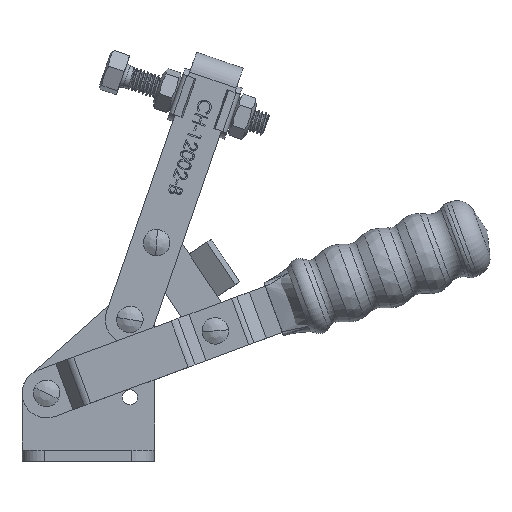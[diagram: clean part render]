
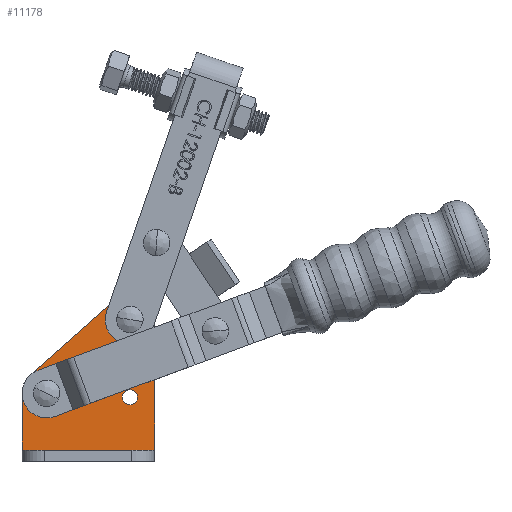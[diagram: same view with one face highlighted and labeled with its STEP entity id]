
A CAD part, top view. The second image highlights one B-rep face of the part: STEP entity #11178.
In plain terms, the highlighted planar face has unit normal (0, 0, 1).
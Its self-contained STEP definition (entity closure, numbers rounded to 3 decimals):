
#862=FACE_BOUND('',#1840,.T.);
#863=FACE_BOUND('',#1841,.T.);
#864=FACE_BOUND('',#1842,.T.);
#942=PLANE('',#12006);
#1219=FACE_OUTER_BOUND('',#1839,.T.);
#1839=EDGE_LOOP('',(#7616,#7617,#7618,#7619,#7620,#7621));
#1840=EDGE_LOOP('',(#7622,#7623));
#1841=EDGE_LOOP('',(#7624,#7625));
#1842=EDGE_LOOP('',(#7626,#7627));
#2541=LINE('',#15136,#3484);
#2542=LINE('',#15138,#3485);
#2543=LINE('',#15142,#3486);
#2544=LINE('',#15145,#3487);
#3484=VECTOR('',#12757,1000.);
#3485=VECTOR('',#12758,1000.);
#3486=VECTOR('',#12761,1000.);
#3487=VECTOR('',#12764,1000.);
#4424=CIRCLE('',#11992,2.);
#4427=CIRCLE('',#11995,2.);
#4428=CIRCLE('',#11997,2.);
#4431=CIRCLE('',#12000,2.);
#4432=CIRCLE('',#12002,2.);
#4435=CIRCLE('',#12005,2.);
#4436=CIRCLE('',#12007,6.5);
#4437=CIRCLE('',#12008,6.5);
#4696=VERTEX_POINT('',#15104);
#4697=VERTEX_POINT('',#15105);
#4700=VERTEX_POINT('',#15114);
#4701=VERTEX_POINT('',#15115);
#4704=VERTEX_POINT('',#15124);
#4705=VERTEX_POINT('',#15125);
#4708=VERTEX_POINT('',#15134);
#4709=VERTEX_POINT('',#15135);
#4710=VERTEX_POINT('',#15137);
#4711=VERTEX_POINT('',#15139);
#4712=VERTEX_POINT('',#15141);
#4713=VERTEX_POINT('',#15143);
#5865=EDGE_CURVE('',#4696,#4697,#4424,.T.);
#5869=EDGE_CURVE('',#4697,#4696,#4427,.T.);
#5870=EDGE_CURVE('',#4700,#4701,#4428,.T.);
#5874=EDGE_CURVE('',#4701,#4700,#4431,.T.);
#5875=EDGE_CURVE('',#4704,#4705,#4432,.T.);
#5879=EDGE_CURVE('',#4705,#4704,#4435,.T.);
#5880=EDGE_CURVE('',#4708,#4709,#2541,.T.);
#5881=EDGE_CURVE('',#4708,#4710,#2542,.T.);
#5882=EDGE_CURVE('',#4710,#4711,#4436,.T.);
#5883=EDGE_CURVE('',#4711,#4712,#2543,.T.);
#5884=EDGE_CURVE('',#4712,#4713,#4437,.T.);
#5885=EDGE_CURVE('',#4713,#4709,#2544,.T.);
#7616=ORIENTED_EDGE('',*,*,#5880,.F.);
#7617=ORIENTED_EDGE('',*,*,#5881,.T.);
#7618=ORIENTED_EDGE('',*,*,#5882,.T.);
#7619=ORIENTED_EDGE('',*,*,#5883,.T.);
#7620=ORIENTED_EDGE('',*,*,#5884,.T.);
#7621=ORIENTED_EDGE('',*,*,#5885,.T.);
#7622=ORIENTED_EDGE('',*,*,#5870,.F.);
#7623=ORIENTED_EDGE('',*,*,#5874,.F.);
#7624=ORIENTED_EDGE('',*,*,#5875,.F.);
#7625=ORIENTED_EDGE('',*,*,#5879,.F.);
#7626=ORIENTED_EDGE('',*,*,#5865,.F.);
#7627=ORIENTED_EDGE('',*,*,#5869,.F.);
#11178=ADVANCED_FACE('',(#1219,#862,#863,#864),#942,.T.);
#11992=AXIS2_PLACEMENT_3D('',#15106,#12724,#12725);
#11995=AXIS2_PLACEMENT_3D('',#15112,#12731,#12732);
#11997=AXIS2_PLACEMENT_3D('',#15116,#12735,#12736);
#12000=AXIS2_PLACEMENT_3D('',#15122,#12742,#12743);
#12002=AXIS2_PLACEMENT_3D('',#15126,#12746,#12747);
#12005=AXIS2_PLACEMENT_3D('',#15132,#12753,#12754);
#12006=AXIS2_PLACEMENT_3D('',#15133,#12755,#12756);
#12007=AXIS2_PLACEMENT_3D('',#15140,#12759,#12760);
#12008=AXIS2_PLACEMENT_3D('',#15144,#12762,#12763);
#12724=DIRECTION('center_axis',(0.,0.,1.));
#12725=DIRECTION('ref_axis',(1.,0.,0.));
#12731=DIRECTION('center_axis',(0.,0.,1.));
#12732=DIRECTION('ref_axis',(1.,0.,0.));
#12735=DIRECTION('center_axis',(0.,0.,1.));
#12736=DIRECTION('ref_axis',(1.,0.,0.));
#12742=DIRECTION('center_axis',(0.,0.,1.));
#12743=DIRECTION('ref_axis',(1.,0.,0.));
#12746=DIRECTION('center_axis',(0.,0.,1.));
#12747=DIRECTION('ref_axis',(1.,0.,0.));
#12753=DIRECTION('center_axis',(0.,0.,1.));
#12754=DIRECTION('ref_axis',(1.,0.,0.));
#12755=DIRECTION('center_axis',(0.,0.,1.));
#12756=DIRECTION('ref_axis',(1.,0.,0.));
#12757=DIRECTION('',(-1.,0.,0.));
#12758=DIRECTION('',(0.,1.,0.));
#12759=DIRECTION('center_axis',(0.,0.,1.));
#12760=DIRECTION('ref_axis',(1.,0.,0.));
#12761=DIRECTION('',(-0.748,-0.663,0.));
#12762=DIRECTION('center_axis',(0.,0.,1.));
#12763=DIRECTION('ref_axis',(1.,0.,0.));
#12764=DIRECTION('',(0.,-1.,0.));
#15104=CARTESIAN_POINT('',(26.5,16.96,3.));
#15105=CARTESIAN_POINT('',(30.5,16.96,3.));
#15106=CARTESIAN_POINT('Origin',(28.5,16.96,3.));
#15112=CARTESIAN_POINT('Origin',(28.5,16.96,3.));
#15114=CARTESIAN_POINT('',(26.5,37.5,3.));
#15115=CARTESIAN_POINT('',(30.5,37.5,3.));
#15116=CARTESIAN_POINT('Origin',(28.5,37.5,3.));
#15122=CARTESIAN_POINT('Origin',(28.5,37.5,3.));
#15124=CARTESIAN_POINT('',(4.5,18.,3.));
#15125=CARTESIAN_POINT('',(8.5,18.,3.));
#15126=CARTESIAN_POINT('Origin',(6.5,18.,3.));
#15132=CARTESIAN_POINT('Origin',(6.5,18.,3.));
#15133=CARTESIAN_POINT('Origin',(6.5,18.,3.));
#15134=CARTESIAN_POINT('',(35.,3.,3.));
#15135=CARTESIAN_POINT('',(0.,3.,3.));
#15136=CARTESIAN_POINT('',(35.,3.,3.));
#15137=CARTESIAN_POINT('',(35.,37.5,3.));
#15138=CARTESIAN_POINT('',(35.,0.,3.));
#15139=CARTESIAN_POINT('',(24.189,42.364,3.));
#15140=CARTESIAN_POINT('Origin',(28.5,37.5,3.));
#15141=CARTESIAN_POINT('',(2.189,22.864,3.));
#15142=CARTESIAN_POINT('',(2.189,22.864,3.));
#15143=CARTESIAN_POINT('',(0.,18.,3.));
#15144=CARTESIAN_POINT('Origin',(6.5,18.,3.));
#15145=CARTESIAN_POINT('',(0.,0.,3.));
